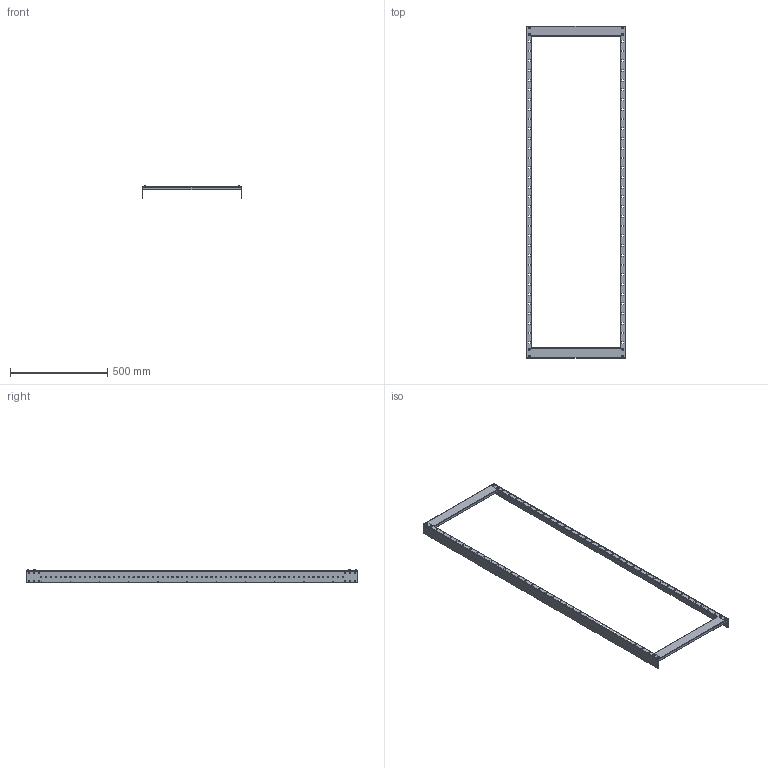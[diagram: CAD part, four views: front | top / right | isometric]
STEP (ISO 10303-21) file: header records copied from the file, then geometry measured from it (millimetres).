
FILE_DESCRIPTION (( 'STEP AP214' ), '1' );
FILE_NAME ('RMD 180.60.STEP', '2024-06-26T13:41:02', ( '' ), ( '' ), 'SwSTEP 2.0', 'SolidWorks 2019', '' );
FILE_SCHEMA (( 'AUTOMOTIVE_DESIGN' ));
Length unit declared in the file: millimetre
Products named in the file (1): RMD 180.60
Bounding box: 512 x 1707 x 63.2 mm (x, y, z)
Volume: 614408.7 mm3; surface area: 706291.4 mm2
Topology: 12 solids, 12 shells, 1026 faces, 2922 edges, 1920 vertices
Faces by surface type: cylinder 494, plane 460, cone 40, bspline 32
Entity records: 50249 total; most frequent: CARTESIAN_POINT 11421, ORIENTED_EDGE 5812, DIRECTION 5396, EDGE_CURVE 2906, VERTEX_POINT 1920, AXIS2_PLACEMENT_3D 1847, LINE 1702, VECTOR 1702
